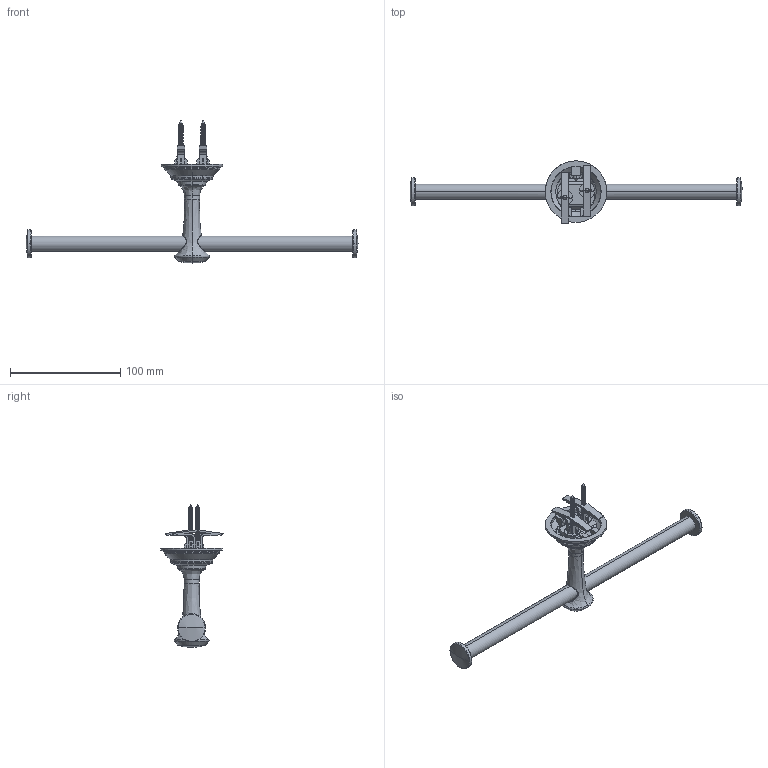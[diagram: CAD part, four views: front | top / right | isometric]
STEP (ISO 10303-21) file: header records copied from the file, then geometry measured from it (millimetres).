
FILE_DESCRIPTION (( 'STEP AP214' ), '1' );
FILE_NAME ('583DTP.STEP', '2025-01-06T01:18:45', ( '' ), ( '' ), 'SwSTEP 2.0', 'SolidWorks 2023', '' );
FILE_SCHEMA (( 'AUTOMOTIVE_DESIGN' ));
Length unit declared in the file: inch
Products named in the file (1): 583DTP
Bounding box: 301.67 x 56.54 x 129.62 mm (x, y, z)
Surface area: 33948 mm2 (no closed solid volume)
Topology: 0 solids, 15 shells, 389 faces, 1227 edges, 826 vertices
Faces by surface type: cylinder 132, plane 111, bspline 72, torus 39, cone 29, sphere 6
Entity records: 41762 total; most frequent: CARTESIAN_POINT 32121, ORIENTED_EDGE 2173, DIRECTION 1602, EDGE_CURVE 1222, VERTEX_POINT 825, AXIS2_PLACEMENT_3D 600, B_SPLINE_CURVE_WITH_KNOTS 519, EDGE_LOOP 413
